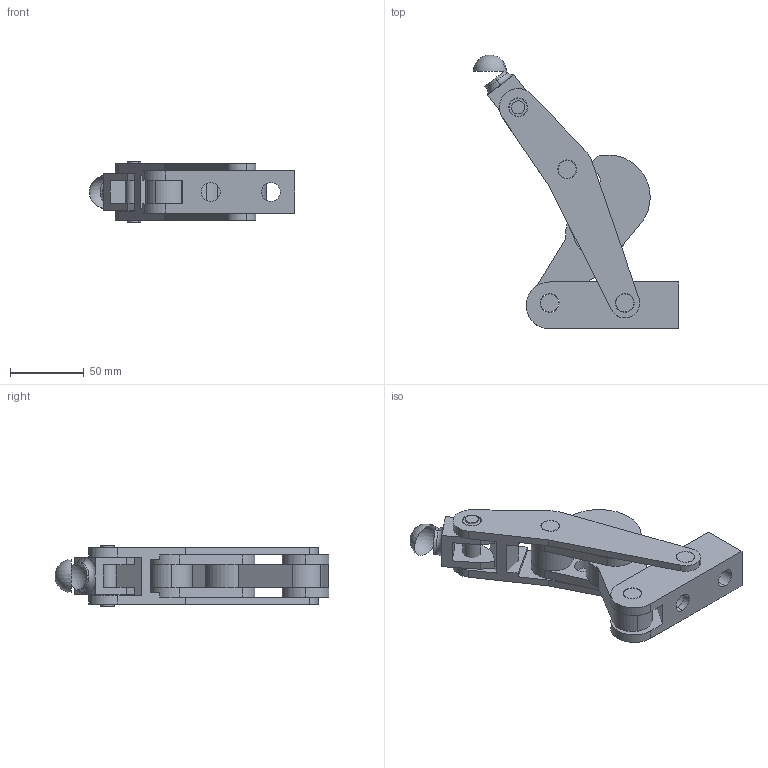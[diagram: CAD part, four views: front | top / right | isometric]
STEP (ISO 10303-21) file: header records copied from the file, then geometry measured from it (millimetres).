
FILE_DESCRIPTION( ( '' ), '1' );
FILE_NAME( 'C:\Documents and Settings\Richard Grenzke\My Documents\Wolverine Company Data\WOLVERINE CD 5_17_05\SOLIDS STEP\heavy_duty_compact\lyt1035.stp', ' ', ( '' ), ( '' ), 'ACIS Interop R16', 'Kubotek KeyCreator V5.5.1 (0454)', ' ' );
FILE_SCHEMA( ( 'CONFIG_CONTROL_DESIGN' ) );
Length unit declared in the file: inch
Products named in the file (13): 1; 2; 3; 4; 5; 6; 7; 8; 9; 10; 11; 12; 13
Bounding box: 138.92 x 185.29 x 40.89 mm (x, y, z)
Volume: 225619.4 mm3; surface area: 82221.9 mm2
Topology: 12 solids, 12 shells, 170 faces, 478 edges, 329 vertices
Faces by surface type: cylinder 86, plane 74, torus 4, cone 4, sphere 2
Entity records: 6301 total; most frequent: DIRECTION 1076, CARTESIAN_POINT 1004, ORIENTED_EDGE 948, EDGE_CURVE 474, AXIS2_PLACEMENT_3D 421, VERTEX_POINT 329, CIRCLE 237, LINE 234
